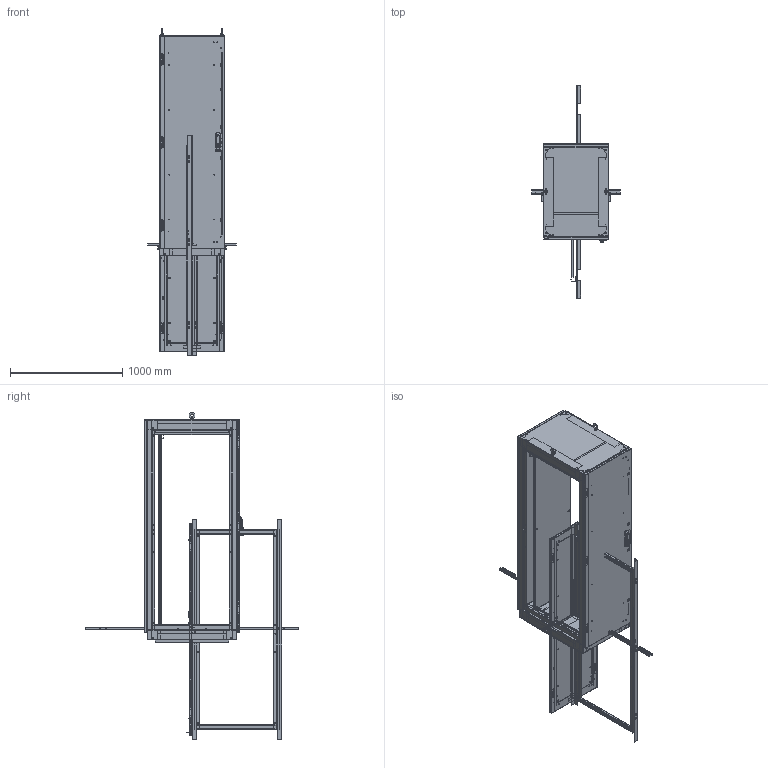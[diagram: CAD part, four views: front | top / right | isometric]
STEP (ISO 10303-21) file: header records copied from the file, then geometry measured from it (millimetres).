
FILE_DESCRIPTION( ( 'Unknown' ), '1' );
FILE_NAME( 'Q:/IME/WEB DRAWINGS/IME1868.stp', 'Unknown', ( 'Unknown' ), ( 'Unknown' ), 'XStep 1.0', 'Unknown', ' ' );
FILE_SCHEMA( ( 'CONFIG_CONTROL_DESIGN' ) );
Length unit declared in the file: millimetre
Products named in the file (100): Assem1; Assem2; Assem3; Assem4; Assem5; Assem6; Assem7; Assem8; Assem9; Assem10; Assem11; Assem12; Assem13; Assem14; Assem15; Assem16; Assem17; Assem18; Assem19; 1; 2; 3; 4; 5; 6; 7; 8; 9; 10; 11; 12; 13; 14; 15; 16; 17; 18; 19; 20; 21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
Bounding box: 791.36 x 1892.5 x 2917.15 mm (x, y, z)
Volume: 45464835 mm3; surface area: 48588188.2 mm2
Topology: 391 solids, 397 shells, 9520 faces, 24158 edges, 15761 vertices
Faces by surface type: plane 6006, cylinder 2757, torus 320, cone 274, bspline 163
Full cylindrical faces by diameter (mm): 2.464 x12, 3.175 x3, 3.607 x12, 4.166 x40, 4.216 x12, 4.318 x12, 4.826 x16, 4.851 x8, 4.928 x12, 5.08 x24, 5.156 x12, 5.537 x94, 5.893 x8, 5.994 x14, 6 x40, 6.35 x54, 6.411 x15, 7.137 x16, 7.366 x12, 7.62 x18, 7.938 x76, 8.001 x24, 8.026 x8, 9.525 x18, 9.804 x27, 10.999 x10, 11.113 x12, 11.506 x28, 11.684 x15, 12.7 x22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
Entity records: 74103 total; most frequent: CARTESIAN_POINT 16955, DIRECTION 10977, ORIENTED_EDGE 10440, EDGE_CURVE 5220, AXIS2_PLACEMENT_3D 3702, LINE 3573, VECTOR 3573, VERTEX_POINT 3542
